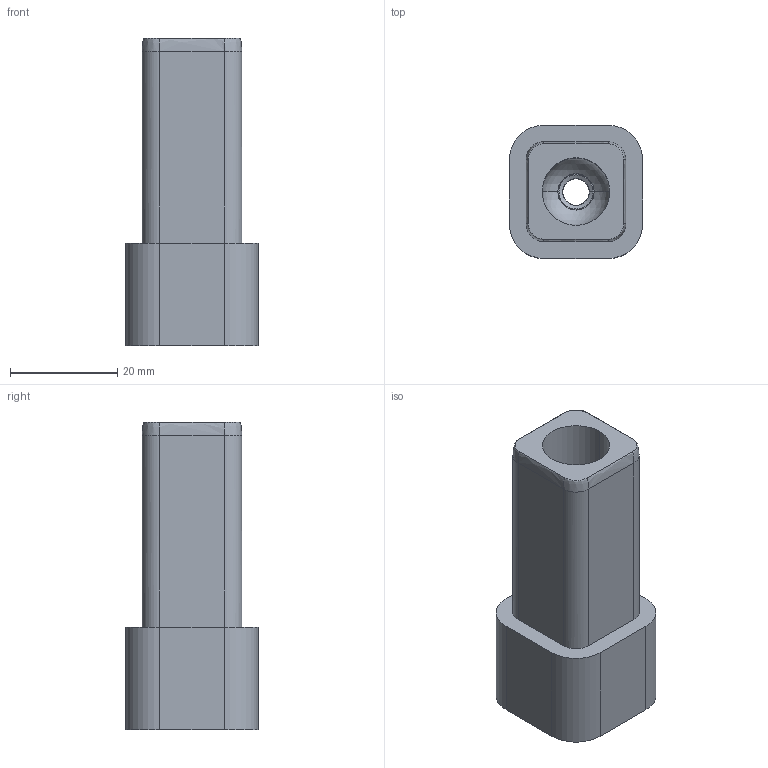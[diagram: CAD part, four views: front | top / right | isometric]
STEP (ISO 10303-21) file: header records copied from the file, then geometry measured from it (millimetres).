
FILE_DESCRIPTION (( 'STEP AP203' ), '1' );
FILE_NAME ('FDPCK-MCS.75-END-THRD.step', '2019-09-11T18:36:24', ( 'ydmin' ), ( '' ), 'SwSTEP 2.0', 'SolidWorks 2017', '' );
FILE_SCHEMA (( 'CONFIG_CONTROL_DESIGN' ));
Length unit declared in the file: inch
Products named in the file (1): FDPCK-MCS.75-END-THRD
Bounding box: 24.77 x 24.77 x 57.15 mm (x, y, z)
Volume: 18804.6 mm3; surface area: 7976.6 mm2
Topology: 2 solids, 2 shells, 43 faces, 102 edges, 64 vertices
Faces by surface type: bspline 16, plane 13, cylinder 12, sphere 2
Entity records: 4887 total; most frequent: CARTESIAN_POINT 3922, ORIENTED_EDGE 204, DIRECTION 156, EDGE_CURVE 102, VERTEX_POINT 64, VECTOR 56, LINE 56, AXIS2_PLACEMENT_3D 50
